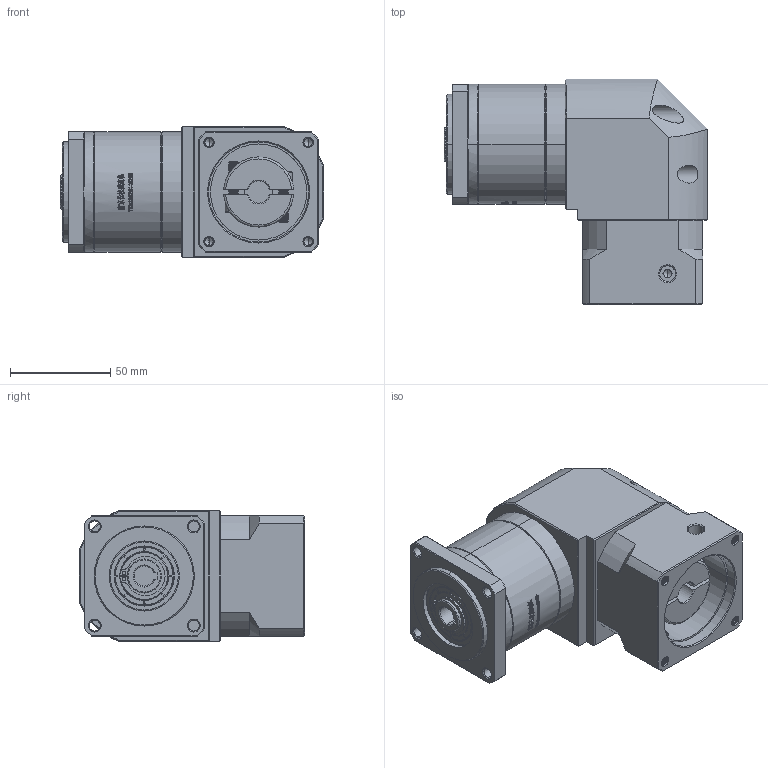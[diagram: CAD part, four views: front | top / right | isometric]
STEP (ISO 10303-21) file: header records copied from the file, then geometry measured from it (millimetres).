
FILE_DESCRIPTION (( 'STEP AP214' ), '1' );
FILE_NAME ('ZFR60-K10-L1-11-50-70-M5.STEP', '2022-04-20T08:51:28', ( '' ), ( 'Microsoft' ), 'SwSTEP 2.0', 'SolidWorks 2016', '' );
FILE_SCHEMA (( 'AUTOMOTIVE_DESIGN' ));
Length unit declared in the file: millimetre
Products named in the file (1): ZFR60-K10-L1-11-50-70-M5
Bounding box: 131.5 x 112.7 x 65 mm (x, y, z)
Volume: 530105.9 mm3; surface area: 77853.1 mm2
Topology: 5 solids, 6 shells, 2627 faces, 7173 edges, 4682 vertices
Faces by surface type: plane 1390, bspline 572, cylinder 359, cone 282, torus 24
Entity records: 142846 total; most frequent: CARTESIAN_POINT 52722, ORIENTED_EDGE 14306, DIRECTION 10340, EDGE_CURVE 7153, VERTEX_POINT 4682, LINE 4338, VECTOR 4338, AXIS2_PLACEMENT_3D 3001
